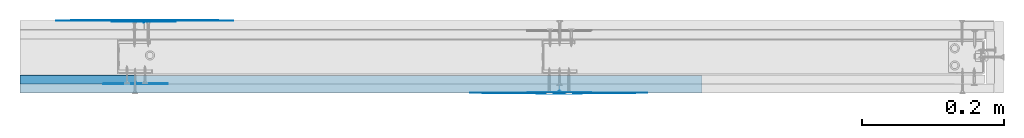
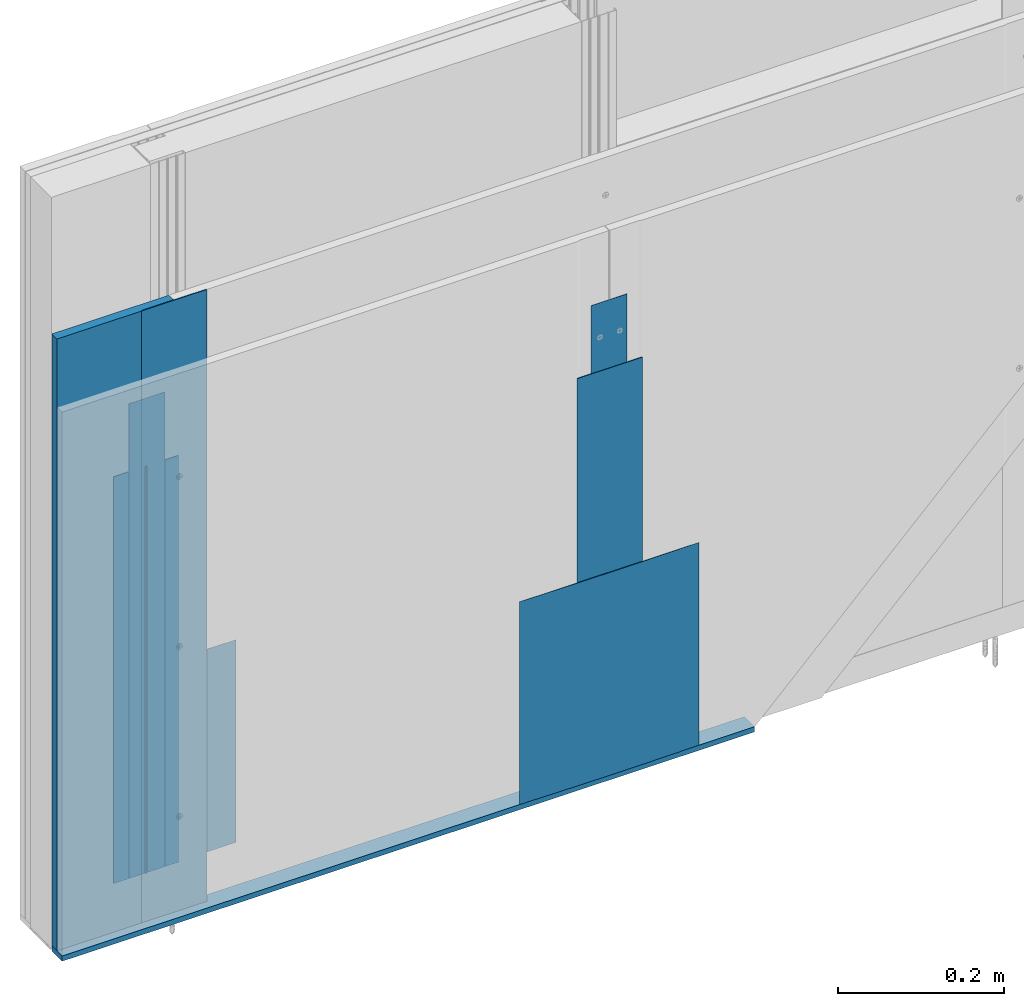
# One storey, part 3 of 52: 9 walls.
"""IFC2X3 building model written with IfcOpenShell, lengths in millimetres."""

from ifc_helpers import new_model, entity, si_unit, converted_unit, direction, frame, origin, origin_with_axes, place, context, project, spatial, faceted_brep, element, save


model = new_model("IFC2X3")

# Units and contexts
model_context = context("Model", 3, precision=1e-05, world=origin(), true_north=direction((0.0, 1.0, 0.0)))
ifc_project = project(units=[si_unit("LENGTHUNIT", "METRE", prefix="MILLI"), si_unit("AREAUNIT", "SQUARE_METRE"), si_unit("VOLUMEUNIT", "CUBIC_METRE"), converted_unit("PLANEANGLEUNIT", "DEGREE", entity("IfcPlaneAngleMeasure", 0.01745), si_unit("PLANEANGLEUNIT", "RADIAN"), dimensions=[0, 0, 0, 0, 0, 0, 0]), si_unit("SOLIDANGLEUNIT", "STERADIAN"), si_unit("MASSUNIT", "GRAM"), si_unit("TIMEUNIT", "SECOND"), si_unit("THERMODYNAMICTEMPERATUREUNIT", "DEGREE_CELSIUS"), si_unit("LUMINOUSINTENSITYUNIT", "LUMEN")], contexts=[model_context])

# Site, building, storey
site_placement = place(None, origin_with_axes())
site = spatial("IfcSite", under=ifc_project, at=site_placement, Name="Default Site", CompositionType="ELEMENT")
building_placement = place(site_placement, origin_with_axes())
building = spatial("IfcBuilding", under=site, at=building_placement, Name="Default Building", CompositionType="ELEMENT")
storey_placement = place(building_placement, origin_with_axes())
storey = spatial("IfcBuildingStorey", under=building, at=storey_placement, Name="Default Building Storey", CompositionType="ELEMENT", Elevation=0.0)

# Walls
wall_1_placement = place(storey_placement, frame((3623.701646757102, 5336.736799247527, 57.54842138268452), z_axis=(0.0, 0.0, 1.0), x_axis=(1.0, 0.0, 0.0)))
element("IfcWall", 1, at=wall_1_placement, inside=storey, Name="Taśma spoinowa RIGIPS", context=model_context, shape_type="Brep", body=[
    faceted_brep([(-712.4592163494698, -3389.356721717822, 700.7999999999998), (-712.4592163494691, -3389.856721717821, 700.7999999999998), (-762.4592163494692, -3389.856721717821, 700.7999999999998), (-762.45921634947, -3389.35672171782, 700.7999999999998), (-712.4592163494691, -3389.856721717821, 2.449996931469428), (-712.4592163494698, -3389.35672171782, 2.449996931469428), (-762.45921634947, -3389.35672171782, 2.449996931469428), (-762.4592163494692, -3389.856721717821, 2.449996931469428)], [[[0, 1, 2, 3]], [[4, 5, 6, 7]], [[5, 0, 3, 6]], [[6, 3, 2, 7]], [[7, 2, 1, 4]], [[4, 1, 0, 5]]]),
])
wall_2_placement = place(storey_placement, frame((2287.429648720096, 1971.180077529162, 1209.999999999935), z_axis=(0.0, 0.0, 1.0), x_axis=(-1.0, 0.0, 0.0)))
element("IfcWall", 2, at=wall_2_placement, inside=storey, Name="Płyta gipsowo-kartonowa RIGIPS PRO (4PRO™)", context=model_context, shape_type="Brep", body=[
    faceted_brep([(162.4045152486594, 12.4999999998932, -250.0000000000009), (162.4045152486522, -1.082867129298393e-10, -250.0000000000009), (162.4045152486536, -1.079257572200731e-10, -1150.001581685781), (162.4045152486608, 12.49999999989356, -1150.001581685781), (0.0, 0.0, -249.9999999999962), (44.99999999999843, 12.50000000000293, -249.9999999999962), (40.99999999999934, 11.50000000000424, -249.9999999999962), (0.9999999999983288, 11.5000000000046, -249.9999999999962), (0.7411809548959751, 11.46592582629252, -249.9999999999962), (0.4999999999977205, 11.3660254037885, -249.9999999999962), (0.2928932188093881, 11.20710678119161, -249.9999999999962), (0.1339745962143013, 11.00000000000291, -249.9999999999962), (0.03407417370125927, 10.7588190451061, -249.9999999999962), (-2.887645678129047e-12, 10.50000000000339, -249.9999999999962), (44.99999999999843, 12.50000000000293, -1150.001581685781), (40.99999999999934, 11.50000000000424, -1150.001581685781), (0.9999999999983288, 11.5000000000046, -1150.001581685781), (0.7411809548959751, 11.46592582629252, -1150.001581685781), (0.4999999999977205, 11.3660254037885, -1150.001581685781), (0.2928932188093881, 11.20710678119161, -1150.001581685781), (0.1339745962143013, 11.00000000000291, -1150.001581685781), (0.03407417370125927, 10.7588190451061, -1150.001581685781), (-2.887645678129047e-12, 10.50000000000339, -1150.001581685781), (0.0, 0.0, -1150.001581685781)], [[[0, 1, 2, 3]], [[4, 1, 0, 5, 6, 7, 8, 9, 10, 11, 12, 13]], [[0, 3, 14, 5]], [[6, 5, 14, 15]], [[7, 6, 15, 16]], [[8, 7, 16, 17]], [[9, 8, 17, 18]], [[10, 9, 18, 19]], [[11, 10, 19, 20]], [[12, 11, 20, 21]], [[13, 12, 21, 22]], [[4, 13, 22, 23]], [[23, 2, 1, 4]], [[14, 3, 2, 23, 22, 21, 20, 19, 18, 17, 16, 15]]]),
])
wall_3_placement = place(storey_placement, frame((3623.701646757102, 5336.736799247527, 57.54842138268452), z_axis=(0.0, 0.0, 1.0), x_axis=(1.0, 0.0, 0.0)))
element("IfcWall", 3, at=wall_3_placement, inside=storey, Name="Dedykowana masa szpachlowa Rigips - wykończeniowa", context=model_context, shape_type="Brep", body=[
    faceted_brep([(-612.459216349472, -3390.556721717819, 2.449996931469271), (-862.459216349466, -3390.556721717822, 2.449996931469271), (-812.4612643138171, -3391.196716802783, 2.449996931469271), (-762.4602403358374, -3391.516720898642, 2.449996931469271), (-712.458192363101, -3391.516720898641, 2.449996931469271), (-662.4571683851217, -3391.19671680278, 2.449996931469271), (-762.4602403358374, -3391.516720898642, 300.8000000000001), (-812.4612643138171, -3391.196716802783, 300.8000000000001), (-862.459216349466, -3390.556721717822, 300.8000000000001), (-612.459216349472, -3390.556721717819, 300.8000000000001), (-662.4571683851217, -3391.19671680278, 300.8000000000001), (-712.458192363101, -3391.516720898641, 300.8000000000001)], [[[0, 1, 2, 3, 4, 5]], [[6, 7, 8, 9, 10, 11]], [[9, 0, 5, 10]], [[10, 5, 4, 11]], [[11, 4, 3, 6]], [[6, 3, 2, 7]], [[1, 8, 7, 2]], [[0, 9, 8, 1]]]),
])
wall_4_placement = place(storey_placement, frame((3488.429648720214, 1946.180077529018, 52.38402578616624), z_axis=(0.0, 0.0, 1.0), x_axis=(1.0, 0.0, 0.0)))
element("IfcWall", 4, at=wall_4_placement, inside=storey, Name="Dedykowana masa szpachlowa Rigips - konstrukcyjna", context=model_context, shape_type="Brep", body=[
    faceted_brep([(-400.0000000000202, 24.6461696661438, 0.0), (-400.0000000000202, 0.0, 0.0), (-1363.404515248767, 0.0, 0.0), (-1363.404515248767, 24.6461696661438, 0.0), (-400.0000000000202, 0.0, 7.614392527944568), (-1363.404515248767, 0.0, 7.614392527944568), (-400.0000000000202, 24.6461696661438, 7.614392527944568), (-1363.404515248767, 24.6461696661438, 7.614392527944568)], [[[0, 1, 2, 3]], [[1, 4, 5, 2]], [[4, 6, 7, 5]], [[6, 0, 3, 7]], [[7, 3, 2, 5]], [[0, 6, 4, 1]]]),
])
wall_5_placement = place(storey_placement, frame((2149.783214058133, 5336.736799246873, 57.5484213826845), z_axis=(0.0, 0.0, 1.0), x_axis=(-1.0, 0.0, 0.0)))
element("IfcWall", 5, at=wall_5_placement, inside=storey, Name="Dedykowana masa szpachlowa Rigips - konstrukcyjna", context=model_context, shape_type="Brep", body=[
    faceted_brep([(-737.4838396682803, 3387.6695906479, 600.7999999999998), (-737.4592163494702, 3387.356721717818, 600.7999999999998), (-737.434593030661, 3387.6695906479, 600.7999999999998), (-737.3613293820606, 3387.974755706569, 600.7999999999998), (-737.2412293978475, 3388.264702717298, 600.7999999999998), (-737.07725033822, 3388.532292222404, 600.7999999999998), (-736.8734299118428, 3388.770935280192, 600.7999999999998), (-736.6347868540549, 3388.974755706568, 600.7999999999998), (-736.3671973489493, 3389.138734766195, 600.7999999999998), (-736.0772503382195, 3389.258834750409, 600.7999999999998), (-735.7720852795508, 3389.332098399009, 600.7999999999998), (-735.45921634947, 3389.356721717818, 600.7999999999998), (-692.4592163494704, 3389.356721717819, 600.7999999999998), (-691.4592163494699, 3390.556721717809, 600.7999999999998), (-782.4592163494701, 3390.556721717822, 600.7999999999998), (-782.4592163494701, 3389.356721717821, 600.7999999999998), (-739.4592163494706, 3389.356721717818, 600.7999999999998), (-739.1463474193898, 3389.332098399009, 600.7999999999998), (-738.8411823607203, 3389.258834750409, 600.7999999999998), (-738.5512353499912, 3389.138734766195, 600.7999999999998), (-738.2836458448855, 3388.974755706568, 600.7999999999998), (-738.0450027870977, 3388.770935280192, 600.7999999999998), (-737.8411823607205, 3388.532292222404, 600.7999999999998), (-737.6772033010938, 3388.264702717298, 600.7999999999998), (-737.55710331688, 3387.974755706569, 600.7999999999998), (-691.4592163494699, 3390.556721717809, 2.449996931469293), (-692.4592163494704, 3389.356721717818, 2.449996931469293), (-735.45921634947, 3389.356721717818, 2.449996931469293), (-735.7720852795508, 3389.332098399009, 2.449996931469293), (-736.0772503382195, 3389.258834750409, 2.449996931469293), (-736.3671973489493, 3389.138734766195, 2.449996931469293), (-736.6347868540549, 3388.974755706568, 2.449996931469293), (-736.8734299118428, 3388.770935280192, 2.449996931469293), (-737.07725033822, 3388.532292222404, 2.449996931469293), (-737.2412293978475, 3388.264702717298, 2.449996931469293), (-737.3613293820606, 3387.974755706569, 2.449996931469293), (-737.434593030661, 3387.6695906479, 2.449996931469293), (-737.4592163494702, 3387.356721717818, 2.449996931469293), (-737.4838396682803, 3387.6695906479, 2.449996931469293), (-737.55710331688, 3387.974755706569, 2.449996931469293), (-737.6772033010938, 3388.264702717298, 2.449996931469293), (-737.8411823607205, 3388.532292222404, 2.449996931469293), (-738.0450027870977, 3388.770935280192, 2.449996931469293), (-738.2836458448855, 3388.974755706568, 2.449996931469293), (-738.5512353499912, 3389.138734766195, 2.449996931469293), (-738.8411823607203, 3389.258834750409, 2.449996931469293), (-739.1463474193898, 3389.332098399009, 2.449996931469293), (-739.4592163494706, 3389.356721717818, 2.449996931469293), (-782.4592163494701, 3389.356721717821, 2.449996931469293), (-782.4592163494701, 3390.556721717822, 2.449996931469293)], [[[0, 1, 2, 3, 4, 5, 6, 7, 8, 9, 10, 11, 12, 13, 14, 15, 16, 17, 18, 19, 20, 21, 22, 23, 24]], [[25, 26, 27, 28, 29, 30, 31, 32, 33, 34, 35, 36, 37, 38, 39, 40, 41, 42, 43, 44, 45, 46, 47, 48, 49]], [[26, 12, 11, 27]], [[10, 9, 29, 28]], [[28, 27, 11, 10]], [[8, 30, 29, 9]], [[7, 6, 32, 31]], [[31, 30, 8, 7]], [[5, 4, 34, 33]], [[33, 32, 6, 5]], [[3, 35, 34, 4]], [[2, 1, 37, 36]], [[36, 35, 3, 2]], [[0, 24, 39, 38]], [[38, 37, 1, 0]], [[23, 40, 39, 24]], [[22, 21, 42, 41]], [[41, 40, 23, 22]], [[20, 19, 44, 43]], [[43, 42, 21, 20]], [[18, 45, 44, 19]], [[17, 16, 47, 46]], [[46, 45, 18, 17]], [[47, 16, 15, 48]], [[48, 15, 14, 49]], [[49, 14, 13, 25]], [[25, 13, 12, 26]]]),
])
wall_6_placement = place(storey_placement, frame((1550.970432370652, 5349.236799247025, 309.1999999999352), z_axis=(0.0, 0.0, 1.0), x_axis=(-1.0, 0.0, 0.0)))
element("IfcWall", 6, at=wall_6_placement, inside=storey, Name="Dedykowana masa szpachlowa Rigips - konstrukcyjna", context=model_context, shape_type="Brep", body=[
    faceted_brep([(-737.4838396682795, 3387.669590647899, 650.8000000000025), (-737.4592163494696, 3387.356721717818, 650.8000000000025), (-737.4345930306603, 3387.669590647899, 650.8000000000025), (-737.3613293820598, 3387.974755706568, 650.8000000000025), (-737.2412293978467, 3388.264702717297, 650.8000000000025), (-737.0772503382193, 3388.532292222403, 650.8000000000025), (-736.8734299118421, 3388.770935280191, 650.8000000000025), (-736.6347868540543, 3388.974755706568, 650.8000000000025), (-736.3671973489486, 3389.138734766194, 650.8000000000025), (-736.0772503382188, 3389.258834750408, 650.8000000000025), (-735.7720852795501, 3389.332098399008, 650.8000000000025), (-735.4592163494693, 3389.356721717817, 650.8000000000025), (-692.4592163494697, 3389.356721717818, 650.8000000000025), (-691.4592163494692, 3390.556721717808, 650.8000000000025), (-782.4592163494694, 3390.556721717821, 650.8000000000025), (-782.4592163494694, 3389.356721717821, 650.8000000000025), (-739.4592163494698, 3389.356721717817, 650.8000000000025), (-739.146347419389, 3389.332098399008, 650.8000000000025), (-738.8411823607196, 3389.258834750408, 650.8000000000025), (-738.5512353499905, 3389.138734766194, 650.8000000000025), (-738.2836458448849, 3388.974755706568, 650.8000000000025), (-738.045002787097, 3388.770935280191, 650.8000000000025), (-737.8411823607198, 3388.532292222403, 650.8000000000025), (-737.6772033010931, 3388.264702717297, 650.8000000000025), (-737.5571033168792, 3387.974755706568, 650.8000000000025), (-691.4592163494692, 3390.556721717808, -249.2015816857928), (-692.4592163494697, 3389.356721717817, -249.2015816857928), (-735.4592163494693, 3389.356721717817, -249.2015816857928), (-735.7720852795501, 3389.332098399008, -249.2015816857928), (-736.0772503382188, 3389.258834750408, -249.2015816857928), (-736.3671973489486, 3389.138734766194, -249.2015816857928), (-736.6347868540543, 3388.974755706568, -249.2015816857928), (-736.8734299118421, 3388.77093528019, -249.2015816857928), (-737.0772503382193, 3388.532292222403, -249.2015816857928), (-737.2412293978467, 3388.264702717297, -249.2015816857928), (-737.3613293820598, 3387.974755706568, -249.2015816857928), (-737.4345930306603, 3387.669590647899, -249.2015816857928), (-737.4592163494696, 3387.356721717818, -249.2015816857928), (-737.4838396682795, 3387.669590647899, -249.2015816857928), (-737.5571033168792, 3387.974755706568, -249.2015816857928), (-737.6772033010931, 3388.264702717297, -249.2015816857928), (-737.8411823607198, 3388.532292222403, -249.2015816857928), (-738.045002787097, 3388.77093528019, -249.2015816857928), (-738.2836458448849, 3388.974755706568, -249.2015816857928), (-738.5512353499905, 3389.138734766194, -249.2015816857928), (-738.8411823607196, 3389.258834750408, -249.2015816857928), (-739.146347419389, 3389.332098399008, -249.2015816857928), (-739.4592163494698, 3389.356721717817, -249.2015816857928), (-782.4592163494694, 3389.356721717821, -249.2015816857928), (-782.4592163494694, 3390.556721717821, -249.2015816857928)], [[[0, 1, 2, 3, 4, 5, 6, 7, 8, 9, 10, 11, 12, 13, 14, 15, 16, 17, 18, 19, 20, 21, 22, 23, 24]], [[25, 26, 27, 28, 29, 30, 31, 32, 33, 34, 35, 36, 37, 38, 39, 40, 41, 42, 43, 44, 45, 46, 47, 48, 49]], [[26, 12, 11, 27]], [[10, 9, 29, 28]], [[28, 27, 11, 10]], [[8, 30, 29, 9]], [[7, 6, 32, 31]], [[31, 30, 8, 7]], [[5, 4, 34, 33]], [[33, 32, 6, 5]], [[3, 35, 34, 4]], [[2, 1, 37, 36]], [[36, 35, 3, 2]], [[0, 24, 39, 38]], [[38, 37, 1, 0]], [[23, 40, 39, 24]], [[22, 21, 42, 41]], [[41, 40, 23, 22]], [[20, 19, 44, 43]], [[43, 42, 21, 20]], [[18, 45, 44, 19]], [[17, 16, 47, 46]], [[46, 45, 18, 17]], [[47, 16, 15, 48]], [[48, 15, 14, 49]], [[49, 14, 13, 25]], [[25, 13, 12, 26]]]),
])
wall_7_placement = place(storey_placement, frame((1563.47043237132, -1342.415798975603, 57.54842138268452), z_axis=(0.0, 0.0, 1.0), x_axis=(-1.0, -8.049116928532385e-16, 0.0)))
element("IfcWall", 7, at=wall_7_placement, inside=storey, Name="Dedykowana masa szpachlowa Rigips - wykończeniowa", context=model_context, shape_type="Brep", body=[
    faceted_brep([(-612.459216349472, -3390.556721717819, 2.449996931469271), (-862.459216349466, -3390.556721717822, 2.449996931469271), (-812.4612643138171, -3391.196716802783, 2.449996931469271), (-762.4602403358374, -3391.516720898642, 2.449996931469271), (-712.458192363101, -3391.516720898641, 2.449996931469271), (-662.4571683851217, -3391.19671680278, 2.449996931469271), (-762.4602403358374, -3391.516720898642, 300.8000000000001), (-812.4612643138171, -3391.196716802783, 300.8000000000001), (-862.459216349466, -3390.556721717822, 300.8000000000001), (-612.459216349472, -3390.556721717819, 300.8000000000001), (-662.4571683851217, -3391.19671680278, 300.8000000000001), (-712.458192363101, -3391.516720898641, 300.8000000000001)], [[[0, 1, 2, 3, 4, 5]], [[6, 7, 8, 9, 10, 11]], [[9, 0, 5, 10]], [[10, 5, 4, 11]], [[11, 4, 3, 6]], [[6, 3, 2, 7]], [[1, 8, 7, 2]], [[0, 9, 8, 1]]]),
])
wall_8_placement = place(storey_placement, frame((3037.388865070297, -1342.415798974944, 57.5484213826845), z_axis=(0.0, 0.0, 1.0), x_axis=(1.0, 0.0, 0.0)))
element("IfcWall", 8, at=wall_8_placement, inside=storey, Name="Dedykowana masa szpachlowa Rigips - konstrukcyjna", context=model_context, shape_type="Brep", body=[
    faceted_brep([(-737.4838396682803, 3387.6695906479, 600.7999999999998), (-737.4592163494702, 3387.356721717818, 600.7999999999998), (-737.434593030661, 3387.6695906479, 600.7999999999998), (-737.3613293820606, 3387.974755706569, 600.7999999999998), (-737.2412293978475, 3388.264702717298, 600.7999999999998), (-737.07725033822, 3388.532292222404, 600.7999999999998), (-736.8734299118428, 3388.770935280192, 600.7999999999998), (-736.6347868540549, 3388.974755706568, 600.7999999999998), (-736.3671973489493, 3389.138734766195, 600.7999999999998), (-736.0772503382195, 3389.258834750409, 600.7999999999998), (-735.7720852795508, 3389.332098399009, 600.7999999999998), (-735.45921634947, 3389.356721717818, 600.7999999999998), (-692.4592163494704, 3389.356721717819, 600.7999999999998), (-691.4592163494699, 3390.556721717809, 600.7999999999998), (-782.4592163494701, 3390.556721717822, 600.7999999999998), (-782.4592163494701, 3389.356721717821, 600.7999999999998), (-739.4592163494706, 3389.356721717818, 600.7999999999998), (-739.1463474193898, 3389.332098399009, 600.7999999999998), (-738.8411823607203, 3389.258834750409, 600.7999999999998), (-738.5512353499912, 3389.138734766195, 600.7999999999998), (-738.2836458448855, 3388.974755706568, 600.7999999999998), (-738.0450027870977, 3388.770935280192, 600.7999999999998), (-737.8411823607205, 3388.532292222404, 600.7999999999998), (-737.6772033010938, 3388.264702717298, 600.7999999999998), (-737.55710331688, 3387.974755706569, 600.7999999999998), (-691.4592163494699, 3390.556721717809, 2.449996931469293), (-692.4592163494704, 3389.356721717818, 2.449996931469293), (-735.45921634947, 3389.356721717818, 2.449996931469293), (-735.7720852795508, 3389.332098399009, 2.449996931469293), (-736.0772503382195, 3389.258834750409, 2.449996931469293), (-736.3671973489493, 3389.138734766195, 2.449996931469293), (-736.6347868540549, 3388.974755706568, 2.449996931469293), (-736.8734299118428, 3388.770935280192, 2.449996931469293), (-737.07725033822, 3388.532292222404, 2.449996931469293), (-737.2412293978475, 3388.264702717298, 2.449996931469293), (-737.3613293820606, 3387.974755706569, 2.449996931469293), (-737.434593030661, 3387.6695906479, 2.449996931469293), (-737.4592163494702, 3387.356721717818, 2.449996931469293), (-737.4838396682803, 3387.6695906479, 2.449996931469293), (-737.55710331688, 3387.974755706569, 2.449996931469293), (-737.6772033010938, 3388.264702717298, 2.449996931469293), (-737.8411823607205, 3388.532292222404, 2.449996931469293), (-738.0450027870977, 3388.770935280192, 2.449996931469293), (-738.2836458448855, 3388.974755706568, 2.449996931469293), (-738.5512353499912, 3389.138734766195, 2.449996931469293), (-738.8411823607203, 3389.258834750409, 2.449996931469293), (-739.1463474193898, 3389.332098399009, 2.449996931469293), (-739.4592163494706, 3389.356721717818, 2.449996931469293), (-782.4592163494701, 3389.356721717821, 2.449996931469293), (-782.4592163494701, 3390.556721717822, 2.449996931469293)], [[[0, 1, 2, 3, 4, 5, 6, 7, 8, 9, 10, 11, 12, 13, 14, 15, 16, 17, 18, 19, 20, 21, 22, 23, 24]], [[25, 26, 27, 28, 29, 30, 31, 32, 33, 34, 35, 36, 37, 38, 39, 40, 41, 42, 43, 44, 45, 46, 47, 48, 49]], [[26, 12, 11, 27]], [[10, 9, 29, 28]], [[28, 27, 11, 10]], [[8, 30, 29, 9]], [[7, 6, 32, 31]], [[31, 30, 8, 7]], [[5, 4, 34, 33]], [[33, 32, 6, 5]], [[3, 35, 34, 4]], [[2, 1, 37, 36]], [[36, 35, 3, 2]], [[0, 24, 39, 38]], [[38, 37, 1, 0]], [[23, 40, 39, 24]], [[22, 21, 42, 41]], [[41, 40, 23, 22]], [[20, 19, 44, 43]], [[43, 42, 21, 20]], [[18, 45, 44, 19]], [[17, 16, 47, 46]], [[46, 45, 18, 17]], [[47, 16, 15, 48]], [[48, 15, 14, 49]], [[49, 14, 13, 25]], [[25, 13, 12, 26]]]),
])
wall_9_placement = place(storey_placement, frame((1563.470432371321, -1342.415798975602, 57.54842138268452), z_axis=(0.0, 0.0, 1.0), x_axis=(-1.0, -8.049116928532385e-16, 0.0)))
element("IfcWall", 9, at=wall_9_placement, inside=storey, Name="Taśma spoinowa RIGIPS", context=model_context, shape_type="Brep", body=[
    faceted_brep([(-712.4592163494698, -3389.356721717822, 700.7999999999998), (-712.4592163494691, -3389.856721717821, 700.7999999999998), (-762.4592163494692, -3389.856721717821, 700.7999999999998), (-762.45921634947, -3389.35672171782, 700.7999999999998), (-712.4592163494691, -3389.856721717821, 2.449996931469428), (-712.4592163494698, -3389.35672171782, 2.449996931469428), (-762.45921634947, -3389.35672171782, 2.449996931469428), (-762.4592163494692, -3389.856721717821, 2.449996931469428)], [[[0, 1, 2, 3]], [[4, 5, 6, 7]], [[5, 0, 3, 6]], [[6, 3, 2, 7]], [[7, 2, 1, 4]], [[4, 1, 0, 5]]]),
])

save(model, "model.ifc")
